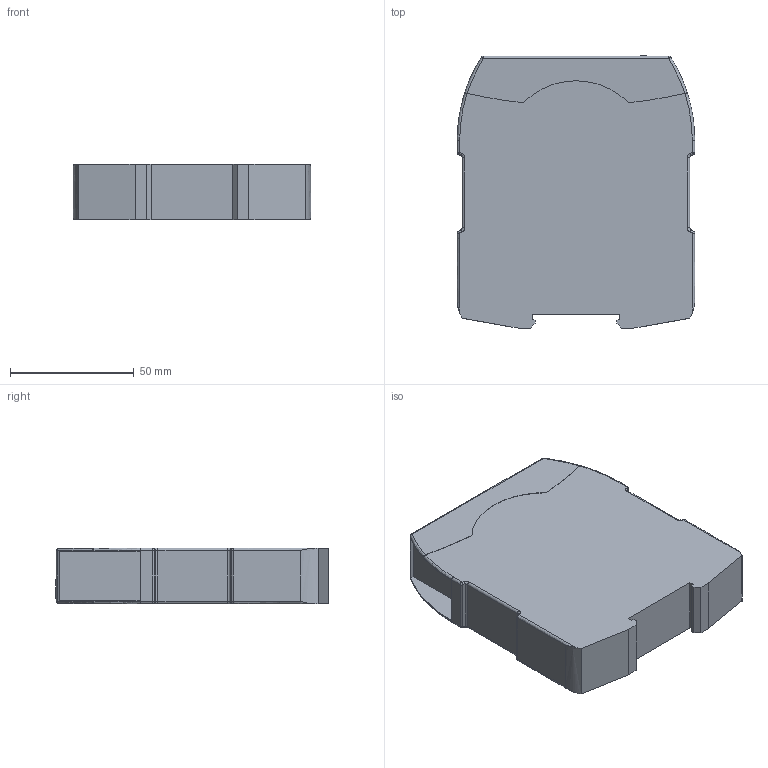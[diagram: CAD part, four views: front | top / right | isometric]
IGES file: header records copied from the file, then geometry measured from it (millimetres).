
Start section:  PTC IGES file: 2009250
Global section: file name: 2009250; native system: Creo Parametric by Parametric Technology Corporation; preprocessor: 2016100; author: merz; organization: Unknown; date: 20160804.095440; units: millimetre
Bounding box: 96 x 110.2 x 22.5 mm (x, y, z)
Surface area: 30038.2 mm2 (no closed solid volume)
Topology: 0 solids, 0 shells, 144 faces, 704 edges, 704 vertices
Faces by surface type: revolution 73, bspline 71
